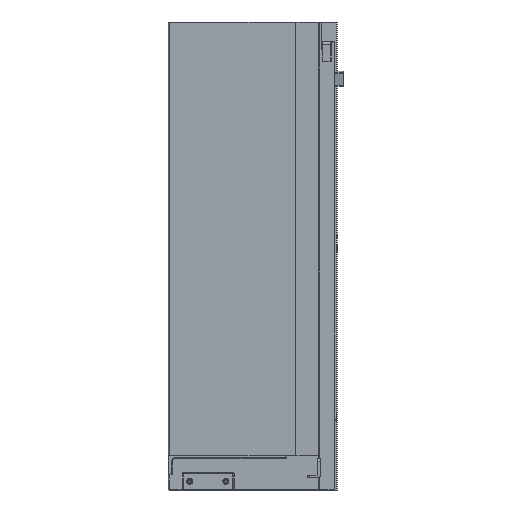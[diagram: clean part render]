
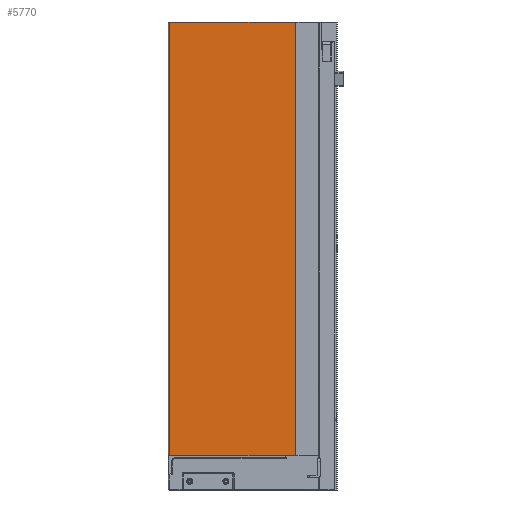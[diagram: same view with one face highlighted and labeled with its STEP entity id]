
A CAD part, left-side view. The second image highlights one B-rep face of the part: STEP entity #5770.
In plain terms, the highlighted planar face has unit normal (-1, 0, 0).
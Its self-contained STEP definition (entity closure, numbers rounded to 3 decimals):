
#139 = CARTESIAN_POINT ( 'NONE',  ( -25.5, 0., 0. ) ) ;
#398 = ORIENTED_EDGE ( 'NONE', *, *, #12400, .F. ) ;
#794 = CARTESIAN_POINT ( 'NONE',  ( -25.5, 0., -323.5 ) ) ;
#892 = VERTEX_POINT ( 'NONE', #8510 ) ;
#1272 = DIRECTION ( 'NONE',  ( 0., 1., 0. ) ) ;
#1379 = DIRECTION ( 'NONE',  ( 0., 0., 1. ) ) ;
#1452 = PLANE ( 'NONE',  #3191 ) ;
#1744 = VECTOR ( 'NONE', #7830, 1000. ) ;
#1834 = VERTEX_POINT ( 'NONE', #3651 ) ;
#1981 = CARTESIAN_POINT ( 'NONE',  ( -25.5, 0., -412.455 ) ) ;
#2446 = DIRECTION ( 'NONE',  ( -1., 0., 0. ) ) ;
#2643 = LINE ( 'NONE', #8228, #2961 ) ;
#2961 = VECTOR ( 'NONE', #1379, 1000. ) ;
#3191 = AXIS2_PLACEMENT_3D ( 'NONE', #8293, #2446, #9268 ) ;
#3651 = CARTESIAN_POINT ( 'NONE',  ( -25.5, 93.8, -323.5 ) ) ;
#3727 = VECTOR ( 'NONE', #9877, 1000. ) ;
#4060 = VERTEX_POINT ( 'NONE', #794 ) ;
#4172 = CARTESIAN_POINT ( 'NONE',  ( -25.5, 0., -323.5 ) ) ;
#4540 = VECTOR ( 'NONE', #1272, 1000. ) ;
#5770 = ADVANCED_FACE ( 'NONE', ( #12575 ), #1452, .T. ) ;
#6316 = LINE ( 'NONE', #139, #3727 ) ;
#7146 = LINE ( 'NONE', #4172, #4540 ) ;
#7830 = DIRECTION ( 'NONE',  ( 0., 0., 1. ) ) ;
#8228 = CARTESIAN_POINT ( 'NONE',  ( -25.5, 93.8, -412.455 ) ) ;
#8293 = CARTESIAN_POINT ( 'NONE',  ( -25.5, 0., -412.455 ) ) ;
#8510 = CARTESIAN_POINT ( 'NONE',  ( -25.5, 0., 0. ) ) ;
#8527 = VERTEX_POINT ( 'NONE', #10897 ) ;
#8657 = ORIENTED_EDGE ( 'NONE', *, *, #9694, .F. ) ;
#9129 = ORIENTED_EDGE ( 'NONE', *, *, #10905, .T. ) ;
#9268 = DIRECTION ( 'NONE',  ( 0., 0., 1. ) ) ;
#9694 = EDGE_CURVE ( 'NONE', #4060, #1834, #7146, .T. ) ;
#9877 = DIRECTION ( 'NONE',  ( 0., 1., 0. ) ) ;
#9926 = ORIENTED_EDGE ( 'NONE', *, *, #11577, .T. ) ;
#10012 = EDGE_LOOP ( 'NONE', ( #398, #8657, #9926, #9129 ) ) ;
#10897 = CARTESIAN_POINT ( 'NONE',  ( -25.5, 93.8, 0. ) ) ;
#10905 = EDGE_CURVE ( 'NONE', #892, #8527, #6316, .T. ) ;
#11474 = LINE ( 'NONE', #1981, #1744 ) ;
#11577 = EDGE_CURVE ( 'NONE', #4060, #892, #11474, .T. ) ;
#12400 = EDGE_CURVE ( 'NONE', #1834, #8527, #2643, .T. ) ;
#12575 = FACE_OUTER_BOUND ( 'NONE', #10012, .T. ) ;
